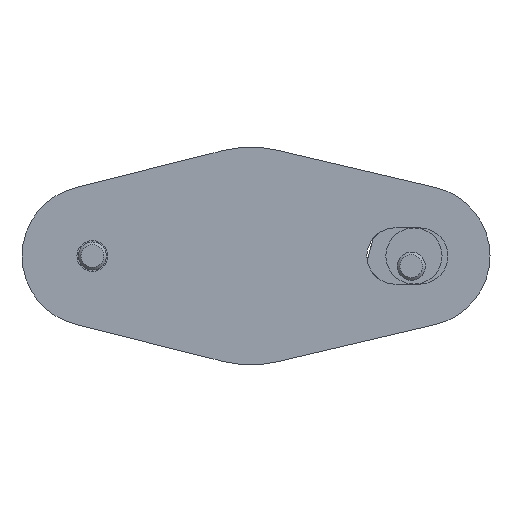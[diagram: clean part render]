
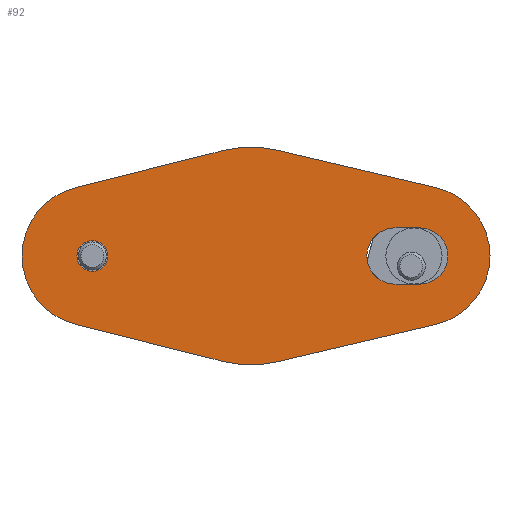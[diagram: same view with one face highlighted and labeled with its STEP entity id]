
A CAD part, front view. The second image highlights one B-rep face of the part: STEP entity #92.
In plain terms, the highlighted planar face has unit normal (0, -1, 0).
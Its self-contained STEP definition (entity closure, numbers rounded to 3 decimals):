
#92 = ADVANCED_FACE( '', ( #178, #179, #180 ), #181, .F. );
#178 = FACE_BOUND( '', #332, .T. );
#179 = FACE_BOUND( '', #333, .T. );
#180 = FACE_OUTER_BOUND( '', #334, .T. );
#181 = PLANE( '', #335 );
#332 = EDGE_LOOP( '', ( #576 ) );
#333 = EDGE_LOOP( '', ( #577, #578, #579, #580 ) );
#334 = EDGE_LOOP( '', ( #581, #582, #583, #584, #585, #586, #587, #588 ) );
#335 = AXIS2_PLACEMENT_3D( '', #589, #590, #591 );
#576 = ORIENTED_EDGE( '', *, *, #964, .T. );
#577 = ORIENTED_EDGE( '', *, *, #962, .T. );
#578 = ORIENTED_EDGE( '', *, *, #954, .T. );
#579 = ORIENTED_EDGE( '', *, *, #958, .T. );
#580 = ORIENTED_EDGE( '', *, *, #960, .T. );
#581 = ORIENTED_EDGE( '', *, *, #930, .F. );
#582 = ORIENTED_EDGE( '', *, *, #952, .F. );
#583 = ORIENTED_EDGE( '', *, *, #949, .F. );
#584 = ORIENTED_EDGE( '', *, *, #946, .F. );
#585 = ORIENTED_EDGE( '', *, *, #943, .F. );
#586 = ORIENTED_EDGE( '', *, *, #940, .F. );
#587 = ORIENTED_EDGE( '', *, *, #937, .F. );
#588 = ORIENTED_EDGE( '', *, *, #934, .F. );
#589 = CARTESIAN_POINT( '', ( -45., 0., 0. ) );
#590 = DIRECTION( '', ( 0., 1., 0. ) );
#591 = DIRECTION( '', ( 0., 0., 1. ) );
#930 = EDGE_CURVE( '', #1086, #1087, #1088, .T. );
#934 = EDGE_CURVE( '', #1087, #1094, #1095, .T. );
#937 = EDGE_CURVE( '', #1094, #1099, #1100, .T. );
#940 = EDGE_CURVE( '', #1099, #1104, #1105, .T. );
#943 = EDGE_CURVE( '', #1104, #1109, #1110, .T. );
#946 = EDGE_CURVE( '', #1109, #1114, #1115, .T. );
#949 = EDGE_CURVE( '', #1114, #1119, #1120, .T. );
#952 = EDGE_CURVE( '', #1119, #1086, #1124, .T. );
#954 = EDGE_CURVE( '', #1126, #1127, #1128, .T. );
#958 = EDGE_CURVE( '', #1127, #1132, #1133, .T. );
#960 = EDGE_CURVE( '', #1132, #1135, #1136, .T. );
#962 = EDGE_CURVE( '', #1135, #1126, #1138, .T. );
#964 = EDGE_CURVE( '', #1141, #1141, #1142, .T. );
#1086 = VERTEX_POINT( '', #1332 );
#1087 = VERTEX_POINT( '', #1333 );
#1088 = LINE( '', #1334, #1335 );
#1094 = VERTEX_POINT( '', #1344 );
#1095 = CIRCLE( '', #1345, 20. );
#1099 = VERTEX_POINT( '', #1350 );
#1100 = LINE( '', #1351, #1352 );
#1104 = VERTEX_POINT( '', #1358 );
#1105 = CIRCLE( '', #1359, 31. );
#1109 = VERTEX_POINT( '', #1364 );
#1110 = LINE( '', #1365, #1366 );
#1114 = VERTEX_POINT( '', #1372 );
#1115 = CIRCLE( '', #1373, 20. );
#1119 = VERTEX_POINT( '', #1378 );
#1120 = LINE( '', #1379, #1380 );
#1124 = CIRCLE( '', #1386, 31. );
#1126 = VERTEX_POINT( '', #1388 );
#1127 = VERTEX_POINT( '', #1389 );
#1128 = CIRCLE( '', #1390, 8. );
#1132 = VERTEX_POINT( '', #1396 );
#1133 = LINE( '', #1397, #1398 );
#1135 = VERTEX_POINT( '', #1401 );
#1136 = CIRCLE( '', #1402, 8. );
#1138 = LINE( '', #1405, #1406 );
#1141 = VERTEX_POINT( '', #1409 );
#1142 = CIRCLE( '', #1410, 4.4 );
#1332 = CARTESIAN_POINT( '', ( -7.578, 0., -30.06 ) );
#1333 = CARTESIAN_POINT( '', ( -49.889, 0., -19.393 ) );
#1334 = CARTESIAN_POINT( '', ( -7.578, 0., -30.06 ) );
#1335 = VECTOR( '', #1629, 1000. );
#1344 = CARTESIAN_POINT( '', ( -49.889, 0., 19.393 ) );
#1345 = AXIS2_PLACEMENT_3D( '', #1633, #1634, #1635 );
#1350 = CARTESIAN_POINT( '', ( -7.578, 0., 30.06 ) );
#1351 = CARTESIAN_POINT( '', ( -49.889, 0., 19.393 ) );
#1352 = VECTOR( '', #1640, 1000. );
#1358 = CARTESIAN_POINT( '', ( 7.104, 0., 30.175 ) );
#1359 = AXIS2_PLACEMENT_3D( '', #1643, #1644, #1645 );
#1364 = CARTESIAN_POINT( '', ( 52.583, 0., 19.468 ) );
#1365 = CARTESIAN_POINT( '', ( 7.104, 0., 30.175 ) );
#1366 = VECTOR( '', #1650, 1000. );
#1372 = CARTESIAN_POINT( '', ( 52.583, 0., -19.468 ) );
#1373 = AXIS2_PLACEMENT_3D( '', #1653, #1654, #1655 );
#1378 = CARTESIAN_POINT( '', ( 7.104, 0., -30.175 ) );
#1379 = CARTESIAN_POINT( '', ( 52.583, 0., -19.468 ) );
#1380 = VECTOR( '', #1660, 1000. );
#1386 = AXIS2_PLACEMENT_3D( '', #1663, #1664, #1665 );
#1388 = CARTESIAN_POINT( '', ( 41., 0., -8. ) );
#1389 = CARTESIAN_POINT( '', ( 41., 0., 8. ) );
#1390 = AXIS2_PLACEMENT_3D( '', #1669, #1670, #1671 );
#1396 = CARTESIAN_POINT( '', ( 48., 0., 8. ) );
#1397 = CARTESIAN_POINT( '', ( 41., 0., 8. ) );
#1398 = VECTOR( '', #1677, 1000. );
#1401 = CARTESIAN_POINT( '', ( 48., 0., -8. ) );
#1402 = AXIS2_PLACEMENT_3D( '', #1679, #1680, #1681 );
#1405 = CARTESIAN_POINT( '', ( 48., 0., -8. ) );
#1406 = VECTOR( '', #1683, 1000. );
#1409 = CARTESIAN_POINT( '', ( -40.6, 0., 0. ) );
#1410 = AXIS2_PLACEMENT_3D( '', #1687, #1688, #1689 );
#1629 = DIRECTION( '', ( -0.97, 0., 0.244 ) );
#1633 = CARTESIAN_POINT( '', ( -45., 0., 0. ) );
#1634 = DIRECTION( '', ( 0., 1., 0. ) );
#1635 = DIRECTION( '', ( 1., 0., 0. ) );
#1640 = DIRECTION( '', ( 0.97, 0., 0.244 ) );
#1643 = CARTESIAN_POINT( '', ( 0., 0., 0. ) );
#1644 = DIRECTION( '', ( 0., 1., 0. ) );
#1645 = DIRECTION( '', ( 1., 0., 0. ) );
#1650 = DIRECTION( '', ( 0.973, 0., -0.229 ) );
#1653 = CARTESIAN_POINT( '', ( 48., 0., 0. ) );
#1654 = DIRECTION( '', ( 0., 1., 0. ) );
#1655 = DIRECTION( '', ( 1., 0., 0. ) );
#1660 = DIRECTION( '', ( -0.973, 0., -0.229 ) );
#1663 = CARTESIAN_POINT( '', ( 0., 0., 0. ) );
#1664 = DIRECTION( '', ( 0., 1., 0. ) );
#1665 = DIRECTION( '', ( 1., 0., 0. ) );
#1669 = CARTESIAN_POINT( '', ( 41., 0., 0. ) );
#1670 = DIRECTION( '', ( 0., 1., 0. ) );
#1671 = DIRECTION( '', ( 1., 0., 0. ) );
#1677 = DIRECTION( '', ( 1., 0., 0. ) );
#1679 = CARTESIAN_POINT( '', ( 48., 0., 0. ) );
#1680 = DIRECTION( '', ( 0., 1., 0. ) );
#1681 = DIRECTION( '', ( 1., 0., 0. ) );
#1683 = DIRECTION( '', ( -1., 0., 0. ) );
#1687 = CARTESIAN_POINT( '', ( -45., 0., 0. ) );
#1688 = DIRECTION( '', ( 0., 1., 0. ) );
#1689 = DIRECTION( '', ( 1., 0., 0. ) );
